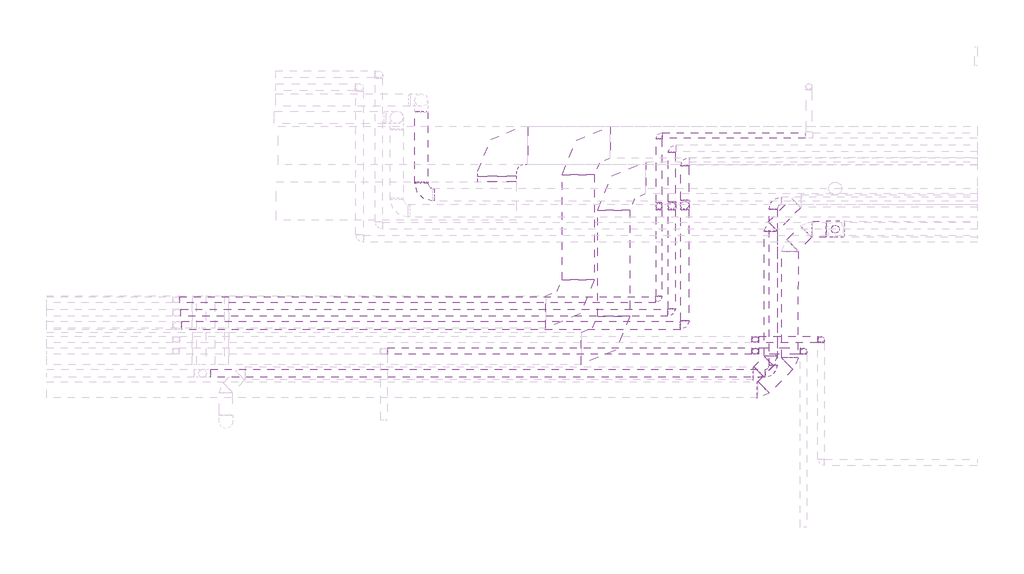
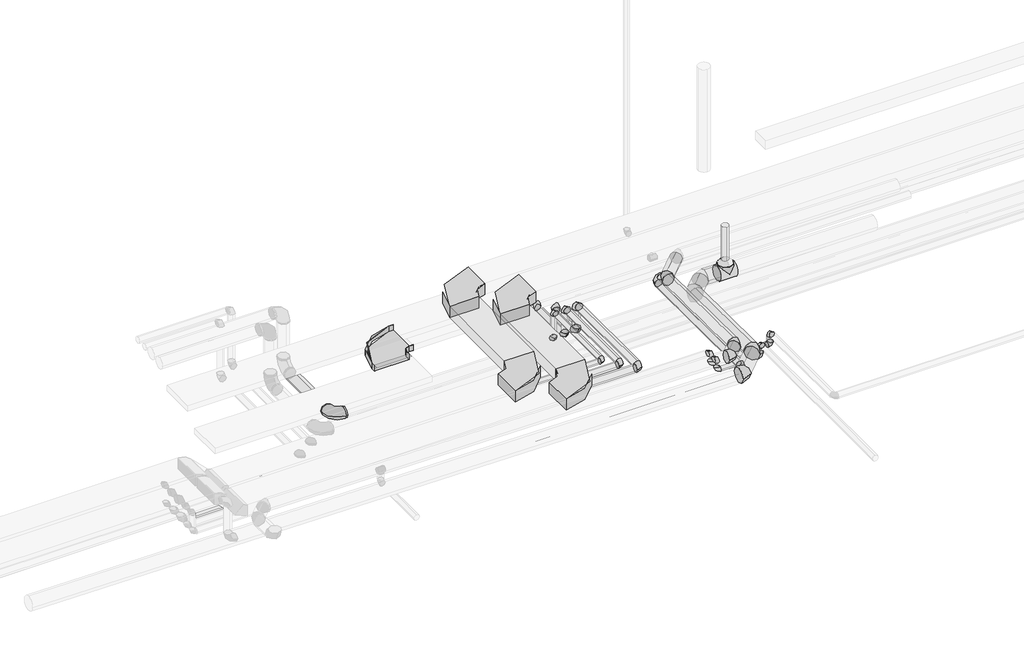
# One storey, part 5 of 12: 29 pipe segments, 27 pipe fittings, 6 duct fittings, 4 duct segments, 1 cable carrier fitting, 1 cable carrier segment.
"""IFC4 building model written with IfcOpenShell, lengths in millimetres."""

from ifc_helpers import new_model, si_unit, point, frame, frame_2d, origin, place, context, project, spatial, polyline, circle_curve, trimmed, segment, composite_curve, outline, extrude, transform, mapped, element, save
from components import m_codo_horizontal_de_canal_el_e565bebe, m_codo_rectangular_radio_apt_1_w_8ec2a39b, m_codo_redondo_ext_1_d_f5cf0ac1, pipe_fitting_ae9a0cda, pipe_fitting_fa3f9604, pipe_fitting_87aeffad, pipe_fitting_e0fa64fe, pipe_fitting_7e9b3de7, pipe_fitting_f9e0fcb5, pipe_fitting_06b8e898, pipe_fitting_057bb177, pipe_fitting_8de1e6f0, pipe_fitting_2f38fb91

model = new_model("IFC4")

# Units and contexts
model_context = context("Model", 3, world=origin())
ifc_project = project(units=[si_unit("LENGTHUNIT", "METRE", prefix="MILLI")], contexts=[model_context])

# Site, building, storey
site = spatial("IfcSite", under=ifc_project)
building = spatial("IfcBuilding", under=site)
storey = spatial("IfcBuildingStorey", under=building, Name="Nivell -01 PS1_PK", Elevation=1850.0)

# Cable carrier fitting
placement = place(None, origin())
m_codo_horizontal_de_canal_el_shape = m_codo_horizontal_de_canal_el_e565bebe(model_context)
element("IfcCableCarrierFitting", 1, ObjectType="M_Codo horizontal de canal : EL", at=placement, inside=storey, context=model_context, shape_type="MappedRepresentation", body=[
    mapped(m_codo_horizontal_de_canal_el_shape, transform((17469.9823979, -12178.0770603, 5200.0), x_axis=(-1.0, 0.0, 0.0), y_axis=(0.0, -1.0, 0.0), z_axis=(0.0, 0.0, 1.0))),
])

# Cable carrier segment
element("IfcCableCarrierSegment", 2, ObjectType="EL", at=placement, inside=storey, context=model_context, shape_type="SweptSolid", body=[
    extrude(outline(polyline([(17169.9823979, -12653.0770603), (17769.9823979, -12653.0770603), (17769.9823979, -12738.9944753), (17169.9823979, -12738.9944753), (17169.9823979, -12653.0770603)])), frame((0.0, 0.0, 5150.0), z_axis=(0.0, 0.0, 1.0), x_axis=(1.0, 0.0, 0.0)), (0.0, 0.0, 1.0), 100.0),
])

# Duct fittings
m_codo_rectangular_radio_apt_1_w_shape = m_codo_rectangular_radio_apt_1_w_8ec2a39b(model_context)
element("IfcDuctFitting", 3, ObjectType="M_Codo rectangular - Radio : APT_1 W", at=placement, inside=storey, context=model_context, shape_type="MappedRepresentation", body=[
    mapped(m_codo_rectangular_radio_apt_1_w_shape, transform((19275.7133499, -15322.0340662, 5750.0), x_axis=(1.0, 0.0, 0.0), y_axis=(0.0, 1.0, 0.0), z_axis=(0.0, 0.0, 1.0))),
])
element("IfcDuctFitting", 4, ObjectType="M_Codo rectangular - Radio : APT_1 W", at=placement, inside=storey, context=model_context, shape_type="MappedRepresentation", body=[
    mapped(m_codo_rectangular_radio_apt_1_w_shape, transform((19275.7133499, -12678.0770603, 5750.0), x_axis=(-1.0, 0.0, 0.0), y_axis=(0.0, -1.0, 0.0), z_axis=(0.0, 0.0, 1.0))),
])
element("IfcDuctFitting", 5, ObjectType="M_Codo rectangular - Radio : EXT_1 W", at=placement, inside=storey, context=model_context, shape_type="MappedRepresentation", body=[
    mapped(m_codo_rectangular_radio_apt_1_w_shape, transform((18725.7133499, -14757.626822, 5750.0), x_axis=(1.0, 0.0, 0.0), y_axis=(0.0, 1.0, 0.0), z_axis=(0.0, 0.0, 1.0))),
])
element("IfcDuctFitting", 6, ObjectType="M_Codo rectangular - Radio : EXT_1 W", at=placement, inside=storey, context=model_context, shape_type="MappedRepresentation", body=[
    mapped(m_codo_rectangular_radio_apt_1_w_shape, transform((18725.7133499, -12128.0770603, 5750.0), x_axis=(-1.0, 0.0, 0.0), y_axis=(0.0, -1.0, 0.0), z_axis=(0.0, 0.0, 1.0))),
])
m_codo_redondo_ext_1_d_shape = m_codo_redondo_ext_1_d_f5cf0ac1(model_context)
element("IfcDuctFitting", 7, ObjectType="M_Codo redondo : EXT_1 D", at=placement, inside=storey, context=model_context, shape_type="MappedRepresentation", body=[
    mapped(m_codo_redondo_ext_1_d_shape, transform((21746.7259712, -13037.2731871, 5450.0326135), x_axis=(-0.9999999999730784, 0.0, 7.3377911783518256e-06), y_axis=(3.064841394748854e-11, -0.9999999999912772, 4.176790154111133e-06), z_axis=(7.3377911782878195e-06, 4.1767901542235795e-06, 0.9999999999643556))),
])
element("IfcDuctFitting", 8, ObjectType="M_Codo redondo : EXT_1 D", at=placement, inside=storey, context=model_context, shape_type="MappedRepresentation", body=[
    mapped(m_codo_redondo_ext_1_d_shape, transform((21746.7259712, -15709.0886118, 5450.0437732), x_axis=(1.0, 0.0, 0.0), y_axis=(0.0, 0.9999999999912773, -4.176790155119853e-06), z_axis=(0.0, 4.176790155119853e-06, 0.9999999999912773))),
])

# Duct segments
element("IfcDuctSegment", 9, ObjectType="EXT_Fibra de vidre rígida", at=placement, inside=storey, context=model_context, shape_type="SweptSolid", body=[
    extrude(outline(polyline([(18975.7133499, -14257.626822), (18475.7133499, -14257.626822), (18475.7133499, -12628.0770603), (18975.7133499, -12628.0770603), (18975.7133499, -14257.626822)])), frame((0.0, 0.0, 5650.0), z_axis=(0.0, 0.0, 1.0), x_axis=(1.0, 0.0, 0.0)), (0.0, 0.0, 1.0), 200.0),
])
element("IfcDuctSegment", 10, ObjectType="APT_Fibra de vidre rígida", at=placement, inside=storey, context=model_context, shape_type="SweptSolid", body=[
    extrude(outline(polyline([(19525.7133499, -14822.0340662), (19025.7133499, -14822.0340662), (19025.7133499, -13178.0770603), (19525.7133499, -13178.0770603), (19525.7133499, -14822.0340662)])), frame((0.0, 0.0, 5650.0), z_axis=(0.0, 0.0, 1.0), x_axis=(1.0, 0.0, 0.0)), (0.0, 0.0, 1.0), 200.0),
])
element("IfcDuctSegment", 11, ObjectType="EXT_Acer Galvanitzat - Rígid", at=placement, inside=storey, context=model_context, shape_type="SweptSolid", body=[
    extrude(outline(composite_curve([segment(trimmed(circle_curve(frame_2d((0.0, 62.5)), 62.5), [point((0.0, 0.0))], [point((-62.5, 62.5))], False, "CARTESIAN"), True, "CONTINUOUS"), segment(trimmed(circle_curve(frame_2d((0.0, 62.5)), 62.5), [point((-62.5, 62.5))], [point((0.0, 125.0))], False, "CARTESIAN"), True, "CONTINUOUS"), segment(trimmed(circle_curve(frame_2d((0.0, 62.5)), 62.5), [point((0.0, 125.0))], [point((62.5, 62.5))], False, "CARTESIAN"), True, "CONTINUOUS"), segment(trimmed(circle_curve(frame_2d((0.0, 62.5)), 62.5), [point((62.5, 62.5))], [point((0.0, 0.0))], False, "CARTESIAN"), True, "CONTINUOUS")], self_intersect=False)), frame((21684.2259712, -13162.2731871, 5450.0331356), z_axis=(0.0, -0.9999999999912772, 4.176790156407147e-06), x_axis=(0.0, -4.176790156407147e-06, -0.9999999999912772)), (0.0, 0.0, 1.0), 2421.8154248),
])
element("IfcDuctSegment", 12, ObjectType="EXT_Acer Galvanitzat - Rígid", at=placement, inside=storey, context=model_context, shape_type="SweptSolid", body=[
    extrude(outline(composite_curve([segment(trimmed(circle_curve(frame_2d((-15709.0886118, 5450.0437732)), 62.5), [point((-15646.5886118, 5450.0437732))], [point((-15709.0886118, 5387.5437732))], False, "CARTESIAN"), True, "CONTINUOUS"), segment(trimmed(circle_curve(frame_2d((-15709.0886118, 5450.0437732)), 62.5), [point((-15709.0886118, 5387.5437732))], [point((-15771.5886118, 5450.0437732))], False, "CARTESIAN"), True, "CONTINUOUS"), segment(trimmed(circle_curve(frame_2d((-15709.0886118, 5450.0437732)), 62.5), [point((-15771.5886118, 5450.0437732))], [point((-15709.0886118, 5512.5437732))], False, "CARTESIAN"), True, "CONTINUOUS"), segment(trimmed(circle_curve(frame_2d((-15709.0886118, 5450.0437732)), 62.5), [point((-15709.0886118, 5512.5437732))], [point((-15646.5886118, 5450.0437732))], False, "CARTESIAN"), True, "CONTINUOUS")], self_intersect=False)), frame((13029.4419437, 0.0, 0.0), z_axis=(1.0, 0.0, 0.0), x_axis=(0.0, 1.0, 0.0)), (0.0, 0.0, 1.0), 8592.2840275),
])

# Pipe fittings
pipe_fitting_shape = pipe_fitting_ae9a0cda(model_context)
element("IfcPipeFitting", 13, ObjectType="M_Codo - Genérico : Estándar", at=placement, inside=storey, context=model_context, shape_type="MappedRepresentation", body=[
    mapped(pipe_fitting_shape, transform((21711.3717909, -15484.7196598, 5756.0169477), x_axis=(0.7070714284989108, 0.7070714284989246, -0.009999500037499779), y_axis=(-0.7071300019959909, 0.707071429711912, -0.004141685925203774), z_axis=(0.004141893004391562, 0.009999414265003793, 0.9999414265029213))),
])
pipe_fitting_2_shape = pipe_fitting_fa3f9604(model_context)
element("IfcPipeFitting", 14, ObjectType="M_Codo - Genérico : Estándar", at=placement, inside=storey, context=model_context, shape_type="MappedRepresentation", body=[
    mapped(pipe_fitting_2_shape, transform((20178.7657524, -13109.9331616, 5515.0), x_axis=(0.0, 1.0, 0.0), y_axis=(0.0, 0.0, -1.0), z_axis=(-1.0, 0.0, 0.0))),
])
element("IfcPipeFitting", 15, ObjectType="M_Codo - Genérico : Estándar", at=placement, inside=storey, context=model_context, shape_type="MappedRepresentation", body=[
    mapped(pipe_fitting_2_shape, transform((20178.7657524, -13109.9331616, 5030.0), x_axis=(0.0, 0.0, -1.0), y_axis=(0.0, 1.0, 0.0), z_axis=(1.0, 0.0, 0.0))),
])
element("IfcPipeFitting", 16, ObjectType="M_Codo - Genérico : Estándar", at=placement, inside=storey, context=model_context, shape_type="MappedRepresentation", body=[
    mapped(pipe_fitting_2_shape, transform((20178.7657524, -14767.4914554, 5515.0), x_axis=(1.0, 0.0, 0.0), y_axis=(0.0, 1.0, 0.0), z_axis=(0.0, 0.0, 1.0))),
])
element("IfcPipeFitting", 17, ObjectType="M_Codo - Genérico : Estándar", at=placement, inside=storey, context=model_context, shape_type="MappedRepresentation", body=[
    mapped(pipe_fitting_2_shape, transform((20178.7657524, -12222.4519116, 5030.0), x_axis=(-1.0, 0.0, 0.0), y_axis=(0.0, -1.0, 0.0), z_axis=(0.0, 0.0, 1.0))),
])
pipe_fitting_3_shape = pipe_fitting_87aeffad(model_context)
element("IfcPipeFitting", 18, ObjectType="M_Codo - Genérico : Estándar", at=placement, inside=storey, context=model_context, shape_type="MappedRepresentation", body=[
    mapped(pipe_fitting_3_shape, transform((19978.7657524, -13120.4831616, 5525.0), x_axis=(0.0, 1.0, 0.0), y_axis=(0.0, 0.0, -1.0), z_axis=(-1.0, 0.0, 0.0))),
])
element("IfcPipeFitting", 19, ObjectType="M_Codo - Genérico : Estándar", at=placement, inside=storey, context=model_context, shape_type="MappedRepresentation", body=[
    mapped(pipe_fitting_3_shape, transform((19978.7657524, -12022.4519116, 5030.0), x_axis=(-1.0, 0.0, 0.0), y_axis=(0.0, -1.0, 0.0), z_axis=(0.0, 0.0, 1.0))),
])
element("IfcPipeFitting", 20, ObjectType="M_Codo - Genérico : Estándar", at=placement, inside=storey, context=model_context, shape_type="MappedRepresentation", body=[
    mapped(pipe_fitting_3_shape, transform((19978.7657524, -13120.4831616, 5030.0), x_axis=(0.0, 0.0, -1.0), y_axis=(0.0, 1.0, 0.0), z_axis=(1.0, 0.0, 0.0))),
])
element("IfcPipeFitting", 21, ObjectType="M_Codo - Genérico : Estándar", at=placement, inside=storey, context=model_context, shape_type="MappedRepresentation", body=[
    mapped(pipe_fitting_3_shape, transform((19978.7657524, -14567.4914554, 5525.0), x_axis=(1.0, 0.0, 0.0), y_axis=(0.0, 1.0, 0.0), z_axis=(0.0, 0.0, 1.0))),
])
element("IfcPipeFitting", 22, ObjectType="M_Codo - Genérico : Estándar", at=placement, inside=storey, context=model_context, shape_type="MappedRepresentation", body=[
    mapped(pipe_fitting_3_shape, transform((22490.3309667, -15184.3810887, 5519.2), x_axis=(0.0, 1.0, 0.0), y_axis=(0.0, 0.0, -1.0), z_axis=(-1.0, 0.0, 0.0))),
])
element("IfcPipeFitting", 23, ObjectType="M_Codo - Genérico : Estándar", at=placement, inside=storey, context=model_context, shape_type="MappedRepresentation", body=[
    mapped(pipe_fitting_3_shape, transform((22490.3309667, -15184.3810887, 5319.2), x_axis=(0.0, 0.0, -1.0), y_axis=(-1.0, 0.0, 0.0), z_axis=(0.0, 1.0, 0.0))),
])
element("IfcPipeFitting", 24, ObjectType="M_Codo - Genérico : Estándar", at=placement, inside=storey, context=model_context, shape_type="MappedRepresentation", body=[
    mapped(pipe_fitting_3_shape, transform((22220.2671011, -15364.3646266, 5519.2), x_axis=(0.0, 1.0, 0.0), y_axis=(0.0, 0.0, -1.0), z_axis=(-1.0, 0.0, 0.0))),
])
element("IfcPipeFitting", 25, ObjectType="M_Codo - Genérico : Estándar", at=placement, inside=storey, context=model_context, shape_type="MappedRepresentation", body=[
    mapped(pipe_fitting_3_shape, transform((22220.2671011, -15364.3646266, 5319.2), x_axis=(0.0, 0.0, -1.0), y_axis=(-1.0, 0.0, 0.0), z_axis=(0.0, 1.0, 0.0))),
])
element("IfcPipeFitting", 26, ObjectType="M_Codo - Genérico : Estándar", at=placement, inside=storey, context=model_context, shape_type="MappedRepresentation", body=[
    mapped(pipe_fitting_3_shape, transform((21470.8983511, -15184.3810887, 5319.2), x_axis=(-1.0, 0.0, 0.0), y_axis=(0.0, 0.0, 1.0), z_axis=(0.0, 1.0, 0.0))),
])
element("IfcPipeFitting", 27, ObjectType="M_Codo - Genérico : Estándar", at=placement, inside=storey, context=model_context, shape_type="MappedRepresentation", body=[
    mapped(pipe_fitting_3_shape, transform((21470.8983511, -15184.3810887, 5519.2), x_axis=(0.0, 0.0, 1.0), y_axis=(-1.0, 0.0, 0.0), z_axis=(0.0, -1.0, 0.0))),
])
element("IfcPipeFitting", 28, ObjectType="M_Codo - Genérico : Estándar", at=placement, inside=storey, context=model_context, shape_type="MappedRepresentation", body=[
    mapped(pipe_fitting_3_shape, transform((21470.8983511, -15364.3646266, 5319.2), x_axis=(-1.0, 0.0, 0.0), y_axis=(0.0, 0.0, 1.0), z_axis=(0.0, 1.0, 0.0))),
])
element("IfcPipeFitting", 29, ObjectType="M_Codo - Genérico : Estándar", at=placement, inside=storey, context=model_context, shape_type="MappedRepresentation", body=[
    mapped(pipe_fitting_3_shape, transform((21470.8983511, -15364.3646266, 5519.2), x_axis=(0.0, 0.0, 1.0), y_axis=(-1.0, 0.0, 0.0), z_axis=(0.0, -1.0, 0.0))),
])
pipe_fitting_4_shape = pipe_fitting_e0fa64fe(model_context)
element("IfcPipeFitting", 30, ObjectType="M_Codo - Genérico : Estándar", at=placement, inside=storey, context=model_context, shape_type="MappedRepresentation", body=[
    mapped(pipe_fitting_4_shape, transform((20378.7657524, -13101.4331616, 5507.5), x_axis=(0.0, 1.0, 0.0), y_axis=(0.0, 0.0, -1.0), z_axis=(-1.0, 0.0, 0.0))),
])
element("IfcPipeFitting", 31, ObjectType="M_Codo - Genérico : Estándar", at=placement, inside=storey, context=model_context, shape_type="MappedRepresentation", body=[
    mapped(pipe_fitting_4_shape, transform((20378.7657524, -13101.4331616, 5030.0), x_axis=(0.0, 0.0, -1.0), y_axis=(0.0, 1.0, 0.0), z_axis=(1.0, 0.0, 0.0))),
])
element("IfcPipeFitting", 32, ObjectType="M_Codo - Genérico : Estándar", at=placement, inside=storey, context=model_context, shape_type="MappedRepresentation", body=[
    mapped(pipe_fitting_4_shape, transform((20378.7657524, -14967.4914554, 5507.5), x_axis=(1.0, 0.0, 0.0), y_axis=(0.0, 1.0, 0.0), z_axis=(0.0, 0.0, 1.0))),
])
element("IfcPipeFitting", 33, ObjectType="M_Codo - Genérico : Estándar", at=placement, inside=storey, context=model_context, shape_type="MappedRepresentation", body=[
    mapped(pipe_fitting_4_shape, transform((20378.7657524, -12422.4519116, 5030.0), x_axis=(-1.0, 0.0, 0.0), y_axis=(0.0, -1.0, 0.0), z_axis=(0.0, 0.0, 1.0))),
])
pipe_fitting_5_shape = pipe_fitting_7e9b3de7(model_context)
element("IfcPipeFitting", 34, ObjectType="M_Codo - Genérico : Estándar", at=placement, inside=storey, context=model_context, shape_type="MappedRepresentation", body=[
    mapped(pipe_fitting_5_shape, transform((21486.997841, -15709.0953774, 5759.1900871), x_axis=(0.9999444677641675, -5.375250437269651e-06, -0.01053856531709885), y_axis=(-3.259281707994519e-05, 0.9999935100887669, -0.00360259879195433), z_axis=(0.010538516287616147, 0.0036027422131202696, 0.9999379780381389))),
])
pipe_fitting_6_shape = pipe_fitting_f9e0fcb5(model_context)
element("IfcPipeFitting", 35, ObjectType="M_Codo - Genérico : Estándar", at=placement, inside=storey, context=model_context, shape_type="MappedRepresentation", body=[
    mapped(pipe_fitting_6_shape, transform((21711.3717909, -13463.9998722, 5735.8097499), x_axis=(-0.7070725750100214, -0.7070702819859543, 0.009999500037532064), y_axis=(0.7071288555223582, -0.7070725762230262, 0.004141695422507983), z_axis=(0.004141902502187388, 0.009999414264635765, 0.9999414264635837))),
])
pipe_fitting_7_shape = pipe_fitting_06b8e898(model_context)
element("IfcPipeFitting", 36, ObjectType="M_Te - Genérica : Estándar", at=placement, inside=storey, context=model_context, shape_type="MappedRepresentation", body=[
    mapped(pipe_fitting_7_shape, transform((22710.5244396, -13474.959858, 5533.9405442), x_axis=(-0.9999500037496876, 0.0, 0.009999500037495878), y_axis=(-0.009999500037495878, 0.0, -0.9999500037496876), z_axis=(0.0, -1.0, 0.0))),
])
pipe_fitting_8_shape = pipe_fitting_057bb177(model_context)
element("IfcPipeFitting", 37, ObjectType="M_Codo - Genérico : Estándar", at=placement, inside=storey, context=model_context, shape_type="MappedRepresentation", body=[
    mapped(pipe_fitting_8_shape, transform((22006.1968687, -15518.9557115, 5559.7146365), x_axis=(0.7071160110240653, 0.7070271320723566, -0.009979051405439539), y_axis=(-0.7070855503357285, 0.7071158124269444, -0.004153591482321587), z_axis=(0.004119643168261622, 0.009993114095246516, 0.9999415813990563))),
])
pipe_fitting_9_shape = pipe_fitting_8de1e6f0(model_context)
element("IfcPipeFitting", 38, ObjectType="M_Codo - Genérico : Estándar", at=placement, inside=storey, context=model_context, shape_type="MappedRepresentation", body=[
    mapped(pipe_fitting_9_shape, transform((21560.6857046, -15964.4108784, 5566.0018351), x_axis=(0.9999500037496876, 0.0, -0.009999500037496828), y_axis=(-4.1123965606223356e-05, 0.9999915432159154, -0.004112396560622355), z_axis=(0.009999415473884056, 0.004112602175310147, 0.9999415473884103))),
])
pipe_fitting_10_shape = pipe_fitting_2f38fb91(model_context)
element("IfcPipeFitting", 39, ObjectType="Codo 90º Soldadura a Tope SDR 11 BluePipe : Estándar", at=placement, inside=storey, context=model_context, shape_type="MappedRepresentation", body=[
    mapped(pipe_fitting_10_shape, transform((16297.0791542, -12939.8388569, 4820.0), x_axis=(-5.613360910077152e-05, -0.999999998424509, 0.0), y_axis=(0.999999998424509, -5.613360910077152e-05, 0.0), z_axis=(0.0, 0.0, 1.0))),
])

# Pipe segments
element("IfcPipeSegment", 40, ObjectType="PPR_CLI_Aquatherm Blue Pipe", at=placement, inside=storey, context=model_context, shape_type="SweptSolid", body=[
    extrude(outline(composite_curve([segment(trimmed(circle_curve(frame_2d((0.0, -100.0000001)), 100.0), [point((0.0, 0.0))], [point((100.0, -100.0000001))], False, "CARTESIAN"), True, "CONTINUOUS"), segment(trimmed(circle_curve(frame_2d((0.0, -100.0000001)), 100.0), [point((100.0, -100.0000001))], [point((0.0, -200.0000001))], False, "CARTESIAN"), True, "CONTINUOUS"), segment(trimmed(circle_curve(frame_2d((0.0, -100.0000001)), 100.0), [point((0.0, -200.0000001))], [point((-100.0, -100.0000001))], False, "CARTESIAN"), True, "CONTINUOUS"), segment(trimmed(circle_curve(frame_2d((0.0, -100.0000001)), 100.0), [point((-100.0, -100.0000001))], [point((0.0, 0.0))], False, "CARTESIAN"), True, "CONTINUOUS")], self_intersect=False)), frame((16197.0889776, -12764.8345543, 4820.0), z_axis=(4.302880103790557e-05, 0.9999999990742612, 0.0), x_axis=(0.0, 0.0, -1.0)), (0.0, 0.0, 1.0), 1116.5505897),
])
element("IfcPipeSegment", 41, ObjectType="AN_CI", at=placement, inside=storey, context=model_context, shape_type="SweptSolid", body=[
    extrude(outline(composite_curve([segment(trimmed(circle_curve(frame_2d((-15364.3646266, 5319.2)), 50.8), [point((-15313.5646266, 5319.2))], [point((-15364.3646266, 5268.4))], False, "CARTESIAN"), True, "CONTINUOUS"), segment(trimmed(circle_curve(frame_2d((-15364.3646266, 5319.2)), 50.8), [point((-15364.3646266, 5268.4))], [point((-15415.1646266, 5319.2))], False, "CARTESIAN"), True, "CONTINUOUS"), segment(trimmed(circle_curve(frame_2d((-15364.3646266, 5319.2)), 50.8), [point((-15415.1646266, 5319.2))], [point((-15364.3646266, 5370.0))], False, "CARTESIAN"), True, "CONTINUOUS"), segment(trimmed(circle_curve(frame_2d((-15364.3646266, 5319.2)), 50.8), [point((-15364.3646266, 5370.0))], [point((-15313.5646266, 5319.2))], False, "CARTESIAN"), True, "CONTINUOUS")], self_intersect=False)), frame((21523.2858511, 0.0, 0.0), z_axis=(1.0, 0.0, 0.0), x_axis=(0.0, 1.0, 0.0)), (0.0, 0.0, 1.0), 644.59375),
])
element("IfcPipeSegment", 42, ObjectType="PP_FN", at=placement, inside=storey, context=model_context, shape_type="SweptSolid", body=[
    extrude(outline(composite_curve([segment(trimmed(circle_curve(frame_2d((5030.0, 20378.7657524)), 62.5), [point((5030.0, 20316.2657524))], [point((4967.5, 20378.7657524))], False, "CARTESIAN"), True, "CONTINUOUS"), segment(trimmed(circle_curve(frame_2d((5030.0, 20378.7657524)), 62.5), [point((4967.5, 20378.7657524))], [point((5030.0, 20441.2657524))], False, "CARTESIAN"), True, "CONTINUOUS"), segment(trimmed(circle_curve(frame_2d((5030.0, 20378.7657524)), 62.5), [point((5030.0, 20441.2657524))], [point((5092.5, 20378.7657524))], False, "CARTESIAN"), True, "CONTINUOUS"), segment(trimmed(circle_curve(frame_2d((5030.0, 20378.7657524)), 62.5), [point((5092.5, 20378.7657524))], [point((5030.0, 20316.2657524))], False, "CARTESIAN"), True, "CONTINUOUS")], self_intersect=False)), frame((0.0, -13029.9956616, 0.0), z_axis=(0.0, 1.0, 0.0), x_axis=(0.0, 0.0, 1.0)), (0.0, 0.0, 1.0), 536.10625),
])
element("IfcPipeSegment", 43, ObjectType="PP_FN", at=placement, inside=storey, context=model_context, shape_type="SweptSolid", body=[
    extrude(outline(composite_curve([segment(trimmed(circle_curve(frame_2d((5030.0, 20178.7657524)), 55.0), [point((5030.0, 20123.7657524))], [point((4975.0, 20178.7657524))], False, "CARTESIAN"), True, "CONTINUOUS"), segment(trimmed(circle_curve(frame_2d((5030.0, 20178.7657524)), 55.0), [point((4975.0, 20178.7657524))], [point((5030.0, 20233.7657524))], False, "CARTESIAN"), True, "CONTINUOUS"), segment(trimmed(circle_curve(frame_2d((5030.0, 20178.7657524)), 55.0), [point((5030.0, 20233.7657524))], [point((5085.0, 20178.7657524))], False, "CARTESIAN"), True, "CONTINUOUS"), segment(trimmed(circle_curve(frame_2d((5030.0, 20178.7657524)), 55.0), [point((5085.0, 20178.7657524))], [point((5030.0, 20123.7657524))], False, "CARTESIAN"), True, "CONTINUOUS")], self_intersect=False)), frame((0.0, -13046.9956616, 0.0), z_axis=(0.0, 1.0, 0.0), x_axis=(0.0, 0.0, 1.0)), (0.0, 0.0, 1.0), 761.60625),
])
element("IfcPipeSegment", 44, ObjectType="PP_FN", at=placement, inside=storey, context=model_context, shape_type="SweptSolid", body=[
    extrude(outline(composite_curve([segment(trimmed(circle_curve(frame_2d((5030.0, 19978.7657524)), 45.0), [point((5030.0, 19933.7657524))], [point((4985.0, 19978.7657524))], False, "CARTESIAN"), True, "CONTINUOUS"), segment(trimmed(circle_curve(frame_2d((5030.0, 19978.7657524)), 45.0), [point((4985.0, 19978.7657524))], [point((5030.0, 20023.7657524))], False, "CARTESIAN"), True, "CONTINUOUS"), segment(trimmed(circle_curve(frame_2d((5030.0, 19978.7657524)), 45.0), [point((5030.0, 20023.7657524))], [point((5075.0, 19978.7657524))], False, "CARTESIAN"), True, "CONTINUOUS"), segment(trimmed(circle_curve(frame_2d((5030.0, 19978.7657524)), 45.0), [point((5075.0, 19978.7657524))], [point((5030.0, 19933.7657524))], False, "CARTESIAN"), True, "CONTINUOUS")], self_intersect=False)), frame((0.0, -13068.0956616, 0.0), z_axis=(0.0, 1.0, 0.0), x_axis=(0.0, 0.0, 1.0)), (0.0, 0.0, 1.0), 993.25625),
])
element("IfcPipeSegment", 45, ObjectType="PVC_Baixant", at=placement, inside=storey, context=model_context, shape_type="SweptSolid", body=[
    extrude(outline(composite_curve([segment(trimmed(circle_curve(frame_2d((0.0, 125.0)), 125.0), [point((-124.993775, 126.2474761))], [point((1.2474761, 249.9937751))], False, "CARTESIAN"), True, "CONTINUOUS"), segment(trimmed(circle_curve(frame_2d((0.0, 125.0)), 125.0), [point((1.2474761, 249.9937751))], [point((124.9937751, 123.7525239))], False, "CARTESIAN"), True, "CONTINUOUS"), segment(trimmed(circle_curve(frame_2d((0.0, 125.0)), 125.0), [point((124.9937751, 123.7525239))], [point((-1.2474761, 0.006225))], False, "CARTESIAN"), True, "CONTINUOUS"), segment(trimmed(circle_curve(frame_2d((0.0, 125.0)), 125.0), [point((-1.2474761, 0.006225))], [point((-124.993775, 126.2474761))], False, "CARTESIAN"), True, "CONTINUOUS")], self_intersect=False)), frame((21966.7583395, -15560.1533704, 5435.2836545), z_axis=(-0.7071160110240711, -0.7070271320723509, 0.009979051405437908), x_axis=(0.7070975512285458, -0.7070455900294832, 0.009979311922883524)), (0.0, 0.0, 1.0), 518.3812238),
])
element("IfcPipeSegment", 46, ObjectType="PVC_Baixant", at=placement, inside=storey, context=model_context, shape_type="SweptSolid", body=[
    extrude(outline(composite_curve([segment(trimmed(circle_curve(frame_2d((0.0, 62.5)), 62.5), [point((-62.5, 62.4999998))], [point((-1e-07, 125.0))], False, "CARTESIAN"), True, "CONTINUOUS"), segment(trimmed(circle_curve(frame_2d((0.0, 62.5)), 62.5), [point((-1e-07, 125.0))], [point((62.5, 62.5000001))], False, "CARTESIAN"), True, "CONTINUOUS"), segment(trimmed(circle_curve(frame_2d((0.0, 62.5)), 62.5), [point((62.5, 62.5000001))], [point((2e-07, 0.0))], False, "CARTESIAN"), True, "CONTINUOUS"), segment(trimmed(circle_curve(frame_2d((0.0, 62.5)), 62.5), [point((2e-07, 0.0))], [point((-62.5, 62.4999998))], False, "CARTESIAN"), True, "CONTINUOUS")], self_intersect=False)), frame((22710.5256118, -13537.4586864, 5739.5187046), z_axis=(-4.946309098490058e-05, -4.943459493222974e-05, 0.9999999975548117), x_axis=(0.9999999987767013, -2.445190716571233e-09, 4.9463090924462e-05)), (0.0, 0.0, 1.0), 610.4781515),
])
element("IfcPipeSegment", 47, ObjectType="PP_FN", at=placement, inside=storey, context=model_context, shape_type="SweptSolid", body=[
    extrude(outline(composite_curve([segment(trimmed(circle_curve(frame_2d((-12022.4519116, 5030.0)), 45.0), [point((-12067.4519116, 5030.0))], [point((-12022.4519116, 5075.0))], False, "CARTESIAN"), True, "CONTINUOUS"), segment(trimmed(circle_curve(frame_2d((-12022.4519116, 5030.0)), 45.0), [point((-12022.4519116, 5075.0))], [point((-11977.4519116, 5030.0))], False, "CARTESIAN"), True, "CONTINUOUS"), segment(trimmed(circle_curve(frame_2d((-12022.4519116, 5030.0)), 45.0), [point((-11977.4519116, 5030.0))], [point((-12022.4519116, 4985.0))], False, "CARTESIAN"), True, "CONTINUOUS"), segment(trimmed(circle_curve(frame_2d((-12022.4519116, 5030.0)), 45.0), [point((-12022.4519116, 4985.0))], [point((-12067.4519116, 5030.0))], False, "CARTESIAN"), True, "CONTINUOUS")], self_intersect=False)), frame((20031.1532524, 0.0, 0.0), z_axis=(1.0, 0.0, 0.0), x_axis=(0.0, 1.0, 0.0)), (0.0, 0.0, 1.0), 2212.4683915),
])
element("IfcPipeSegment", 48, ObjectType="PP_FN", at=placement, inside=storey, context=model_context, shape_type="SweptSolid", body=[
    extrude(outline(composite_curve([segment(trimmed(circle_curve(frame_2d((5525.0, 19978.7657524)), 45.0), [point((5525.0, 20023.7657524))], [point((5570.0, 19978.7657524))], False, "CARTESIAN"), True, "CONTINUOUS"), segment(trimmed(circle_curve(frame_2d((5525.0, 19978.7657524)), 45.0), [point((5570.0, 19978.7657524))], [point((5525.0, 19933.7657524))], False, "CARTESIAN"), True, "CONTINUOUS"), segment(trimmed(circle_curve(frame_2d((5525.0, 19978.7657524)), 45.0), [point((5525.0, 19933.7657524))], [point((5480.0, 19978.7657524))], False, "CARTESIAN"), True, "CONTINUOUS"), segment(trimmed(circle_curve(frame_2d((5525.0, 19978.7657524)), 45.0), [point((5480.0, 19978.7657524))], [point((5525.0, 20023.7657524))], False, "CARTESIAN"), True, "CONTINUOUS")], self_intersect=False)), frame((0.0, -14515.1039554, 0.0), z_axis=(0.0, 1.0, 0.0), x_axis=(0.0, 0.0, 1.0)), (0.0, 0.0, 1.0), 1342.2332938),
])
element("IfcPipeSegment", 49, ObjectType="PP_FN", at=placement, inside=storey, context=model_context, shape_type="SweptSolid", body=[
    extrude(outline(composite_curve([segment(trimmed(circle_curve(frame_2d((5515.0, 20178.7657524)), 55.0), [point((5515.0, 20233.7657524))], [point((5570.0, 20178.7657524))], False, "CARTESIAN"), True, "CONTINUOUS"), segment(trimmed(circle_curve(frame_2d((5515.0, 20178.7657524)), 55.0), [point((5570.0, 20178.7657524))], [point((5515.0, 20123.7657524))], False, "CARTESIAN"), True, "CONTINUOUS"), segment(trimmed(circle_curve(frame_2d((5515.0, 20178.7657524)), 55.0), [point((5515.0, 20123.7657524))], [point((5460.0, 20178.7657524))], False, "CARTESIAN"), True, "CONTINUOUS"), segment(trimmed(circle_curve(frame_2d((5515.0, 20178.7657524)), 55.0), [point((5460.0, 20178.7657524))], [point((5515.0, 20233.7657524))], False, "CARTESIAN"), True, "CONTINUOUS")], self_intersect=False)), frame((0.0, -14704.5539554, 0.0), z_axis=(0.0, 1.0, 0.0), x_axis=(0.0, 0.0, 1.0)), (0.0, 0.0, 1.0), 1531.6832938),
])
element("IfcPipeSegment", 50, ObjectType="PP_FN", at=placement, inside=storey, context=model_context, shape_type="SweptSolid", body=[
    extrude(outline(composite_curve([segment(trimmed(circle_curve(frame_2d((5507.5, 20378.7657524)), 62.5), [point((5507.5, 20441.2657524))], [point((5570.0, 20378.7657524))], False, "CARTESIAN"), True, "CONTINUOUS"), segment(trimmed(circle_curve(frame_2d((5507.5, 20378.7657524)), 62.5), [point((5570.0, 20378.7657524))], [point((5507.5, 20316.2657524))], False, "CARTESIAN"), True, "CONTINUOUS"), segment(trimmed(circle_curve(frame_2d((5507.5, 20378.7657524)), 62.5), [point((5507.5, 20316.2657524))], [point((5445.0, 20378.7657524))], False, "CARTESIAN"), True, "CONTINUOUS"), segment(trimmed(circle_curve(frame_2d((5507.5, 20378.7657524)), 62.5), [point((5445.0, 20378.7657524))], [point((5507.5, 20441.2657524))], False, "CARTESIAN"), True, "CONTINUOUS")], self_intersect=False)), frame((0.0, -14896.0539554, 0.0), z_axis=(0.0, 1.0, 0.0), x_axis=(0.0, 0.0, 1.0)), (0.0, 0.0, 1.0), 1723.1832938),
])
element("IfcPipeSegment", 51, ObjectType="PP_FN", at=placement, inside=storey, context=model_context, shape_type="SweptSolid", body=[
    extrude(outline(composite_curve([segment(trimmed(circle_curve(frame_2d((19978.7657524, -13120.4831616)), 45.0), [point((20023.7657524, -13120.4831616))], [point((19978.7657524, -13165.4831616))], False, "CARTESIAN"), True, "CONTINUOUS"), segment(trimmed(circle_curve(frame_2d((19978.7657524, -13120.4831616)), 45.0), [point((19978.7657524, -13165.4831616))], [point((19933.7657524, -13120.4831616))], False, "CARTESIAN"), True, "CONTINUOUS"), segment(trimmed(circle_curve(frame_2d((19978.7657524, -13120.4831616)), 45.0), [point((19933.7657524, -13120.4831616))], [point((19978.7657524, -13075.4831616))], False, "CARTESIAN"), True, "CONTINUOUS"), segment(trimmed(circle_curve(frame_2d((19978.7657524, -13120.4831616)), 45.0), [point((19978.7657524, -13075.4831616))], [point((20023.7657524, -13120.4831616))], False, "CARTESIAN"), True, "CONTINUOUS")], self_intersect=False)), frame((0.0, 0.0, 5082.3875), z_axis=(0.0, 0.0, 1.0), x_axis=(1.0, 0.0, 0.0)), (0.0, 0.0, 1.0), 390.225),
])
element("IfcPipeSegment", 52, ObjectType="PP_FN", at=placement, inside=storey, context=model_context, shape_type="SweptSolid", body=[
    extrude(outline(composite_curve([segment(trimmed(circle_curve(frame_2d((20178.7657524, -13109.9331616)), 55.0), [point((20233.7657524, -13109.9331616))], [point((20178.7657524, -13164.9331616))], False, "CARTESIAN"), True, "CONTINUOUS"), segment(trimmed(circle_curve(frame_2d((20178.7657524, -13109.9331616)), 55.0), [point((20178.7657524, -13164.9331616))], [point((20123.7657524, -13109.9331616))], False, "CARTESIAN"), True, "CONTINUOUS"), segment(trimmed(circle_curve(frame_2d((20178.7657524, -13109.9331616)), 55.0), [point((20123.7657524, -13109.9331616))], [point((20178.7657524, -13054.9331616))], False, "CARTESIAN"), True, "CONTINUOUS"), segment(trimmed(circle_curve(frame_2d((20178.7657524, -13109.9331616)), 55.0), [point((20178.7657524, -13054.9331616))], [point((20233.7657524, -13109.9331616))], False, "CARTESIAN"), True, "CONTINUOUS")], self_intersect=False)), frame((0.0, 0.0, 5092.9375), z_axis=(0.0, 0.0, 1.0), x_axis=(1.0, 0.0, 0.0)), (0.0, 0.0, 1.0), 359.125),
])
element("IfcPipeSegment", 53, ObjectType="PP_FN", at=placement, inside=storey, context=model_context, shape_type="SweptSolid", body=[
    extrude(outline(composite_curve([segment(trimmed(circle_curve(frame_2d((20378.7657524, -13101.4331616)), 62.5), [point((20441.2657524, -13101.4331616))], [point((20378.7657524, -13163.9331616))], False, "CARTESIAN"), True, "CONTINUOUS"), segment(trimmed(circle_curve(frame_2d((20378.7657524, -13101.4331616)), 62.5), [point((20378.7657524, -13163.9331616))], [point((20316.2657524, -13101.4331616))], False, "CARTESIAN"), True, "CONTINUOUS"), segment(trimmed(circle_curve(frame_2d((20378.7657524, -13101.4331616)), 62.5), [point((20316.2657524, -13101.4331616))], [point((20378.7657524, -13038.9331616))], False, "CARTESIAN"), True, "CONTINUOUS"), segment(trimmed(circle_curve(frame_2d((20378.7657524, -13101.4331616)), 62.5), [point((20378.7657524, -13038.9331616))], [point((20441.2657524, -13101.4331616))], False, "CARTESIAN"), True, "CONTINUOUS")], self_intersect=False)), frame((0.0, 0.0, 5101.4375), z_axis=(0.0, 0.0, 1.0), x_axis=(1.0, 0.0, 0.0)), (0.0, 0.0, 1.0), 334.625),
])
element("IfcPipeSegment", 54, ObjectType="PP_FN", at=placement, inside=storey, context=model_context, shape_type="SweptSolid", body=[
    extrude(outline(composite_curve([segment(trimmed(circle_curve(frame_2d((-14967.4914554, 5507.5)), 62.5), [point((-14904.9914554, 5507.5))], [point((-14967.4914554, 5445.0))], False, "CARTESIAN"), True, "CONTINUOUS"), segment(trimmed(circle_curve(frame_2d((-14967.4914554, 5507.5)), 62.5), [point((-14967.4914554, 5445.0))], [point((-15029.9914554, 5507.5))], False, "CARTESIAN"), True, "CONTINUOUS"), segment(trimmed(circle_curve(frame_2d((-14967.4914554, 5507.5)), 62.5), [point((-15029.9914554, 5507.5))], [point((-14967.4914554, 5570.0))], False, "CARTESIAN"), True, "CONTINUOUS"), segment(trimmed(circle_curve(frame_2d((-14967.4914554, 5507.5)), 62.5), [point((-14967.4914554, 5570.0))], [point((-14904.9914554, 5507.5))], False, "CARTESIAN"), True, "CONTINUOUS")], self_intersect=False)), frame((12586.2092422, 0.0, 0.0), z_axis=(1.0, 0.0, 0.0), x_axis=(0.0, 1.0, 0.0)), (0.0, 0.0, 1.0), 7721.1190102),
])
element("IfcPipeSegment", 55, ObjectType="PP_FN", at=placement, inside=storey, context=model_context, shape_type="SweptSolid", body=[
    extrude(outline(composite_curve([segment(trimmed(circle_curve(frame_2d((-14767.4914554, 5515.0)), 55.0), [point((-14712.4914554, 5515.0))], [point((-14767.4914554, 5460.0))], False, "CARTESIAN"), True, "CONTINUOUS"), segment(trimmed(circle_curve(frame_2d((-14767.4914554, 5515.0)), 55.0), [point((-14767.4914554, 5460.0))], [point((-14822.4914554, 5515.0))], False, "CARTESIAN"), True, "CONTINUOUS"), segment(trimmed(circle_curve(frame_2d((-14767.4914554, 5515.0)), 55.0), [point((-14822.4914554, 5515.0))], [point((-14767.4914554, 5570.0))], False, "CARTESIAN"), True, "CONTINUOUS"), segment(trimmed(circle_curve(frame_2d((-14767.4914554, 5515.0)), 55.0), [point((-14767.4914554, 5570.0))], [point((-14712.4914554, 5515.0))], False, "CARTESIAN"), True, "CONTINUOUS")], self_intersect=False)), frame((12569.2092422, 0.0, 0.0), z_axis=(1.0, 0.0, 0.0), x_axis=(0.0, 1.0, 0.0)), (0.0, 0.0, 1.0), 7546.6190102),
])
element("IfcPipeSegment", 56, ObjectType="PP_FN", at=placement, inside=storey, context=model_context, shape_type="SweptSolid", body=[
    extrude(outline(composite_curve([segment(trimmed(circle_curve(frame_2d((-14567.4914554, 5525.0)), 45.0), [point((-14522.4914554, 5525.0))], [point((-14567.4914554, 5480.0))], False, "CARTESIAN"), True, "CONTINUOUS"), segment(trimmed(circle_curve(frame_2d((-14567.4914554, 5525.0)), 45.0), [point((-14567.4914554, 5480.0))], [point((-14612.4914554, 5525.0))], False, "CARTESIAN"), True, "CONTINUOUS"), segment(trimmed(circle_curve(frame_2d((-14567.4914554, 5525.0)), 45.0), [point((-14612.4914554, 5525.0))], [point((-14567.4914554, 5570.0))], False, "CARTESIAN"), True, "CONTINUOUS"), segment(trimmed(circle_curve(frame_2d((-14567.4914554, 5525.0)), 45.0), [point((-14567.4914554, 5570.0))], [point((-14522.4914554, 5525.0))], False, "CARTESIAN"), True, "CONTINUOUS")], self_intersect=False)), frame((12548.1092422, 0.0, 0.0), z_axis=(1.0, 0.0, 0.0), x_axis=(0.0, 1.0, 0.0)), (0.0, 0.0, 1.0), 7378.2690102),
])
element("IfcPipeSegment", 57, ObjectType="PVC_Baixant", at=placement, inside=storey, context=model_context, shape_type="SweptSolid", body=[
    extrude(outline(composite_curve([segment(trimmed(circle_curve(frame_2d((0.0, 125.0)), 125.0), [point((0.0, 250.0))], [point((124.9999999, 125.0))], False, "CARTESIAN"), True, "CONTINUOUS"), segment(trimmed(circle_curve(frame_2d((0.0, 125.0)), 125.0), [point((124.9999999, 125.0))], [point((0.0, 0.0))], False, "CARTESIAN"), True, "CONTINUOUS"), segment(trimmed(circle_curve(frame_2d((0.0, 125.0)), 125.0), [point((0.0, 0.0))], [point((-125.0, 125.0))], False, "CARTESIAN"), True, "CONTINUOUS"), segment(trimmed(circle_curve(frame_2d((0.0, 125.0)), 125.0), [point((-125.0, 125.0))], [point((0.0, 250.0))], False, "CARTESIAN"), True, "CONTINUOUS")], self_intersect=False)), frame((22569.2440035, -13599.959858, 5535.3533486), z_axis=(-0.9999500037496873, 0.0, 0.00999950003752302), x_axis=(0.00999950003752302, 0.0, 0.9999500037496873)), (0.0, 0.0, 1.0), 216.4281281),
])
element("IfcPipeSegment", 58, ObjectType="PVC_Baixant", at=placement, inside=storey, context=model_context, shape_type="SweptSolid", body=[
    extrude(outline(composite_curve([segment(trimmed(circle_curve(frame_2d((0.0, 124.9999999)), 125.0), [point((-124.9937511, 126.2498644))], [point((1.2498645, 249.9937511))], False, "CARTESIAN"), True, "CONTINUOUS"), segment(trimmed(circle_curve(frame_2d((0.0, 124.9999999)), 125.0), [point((1.2498645, 249.9937511))], [point((124.9937513, 123.7501355))], False, "CARTESIAN"), True, "CONTINUOUS"), segment(trimmed(circle_curve(frame_2d((0.0, 124.9999999)), 125.0), [point((124.9937513, 123.7501355))], [point((-1.2498644, 0.0062488))], False, "CARTESIAN"), True, "CONTINUOUS"), segment(trimmed(circle_curve(frame_2d((0.0, 124.9999999)), 125.0), [point((-1.2498644, 0.0062488))], [point((-124.9937511, 126.2498644))], False, "CARTESIAN"), True, "CONTINUOUS")], self_intersect=False)), frame((22257.4218336, -13516.2454286, 5413.6477572), z_axis=(-0.7070684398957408, -0.7070744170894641, 0.00999950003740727), x_axis=(0.707145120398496, -0.7069977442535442, 0.00999841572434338)), (0.0, 0.0, 1.0), 295.7372042),
])
element("IfcPipeSegment", 59, ObjectType="PVC_Baixant", at=placement, inside=storey, context=model_context, shape_type="SweptSolid", body=[
    extrude(outline(composite_curve([segment(trimmed(circle_curve(frame_2d((0.0, 125.0)), 125.0), [point((-124.9999999, 125.0019126))], [point((0.0019126, 250.0))], False, "CARTESIAN"), True, "CONTINUOUS"), segment(trimmed(circle_curve(frame_2d((0.0, 125.0)), 125.0), [point((0.0019126, 250.0))], [point((125.0, 124.9980874))], False, "CARTESIAN"), True, "CONTINUOUS"), segment(trimmed(circle_curve(frame_2d((0.0, 125.0)), 125.0), [point((125.0, 124.9980874))], [point((-0.0019125, 0.0))], False, "CARTESIAN"), True, "CONTINUOUS"), segment(trimmed(circle_curve(frame_2d((0.0, 125.0)), 125.0), [point((-0.0019125, 0.0))], [point((-124.9999999, 125.0019126))], False, "CARTESIAN"), True, "CONTINUOUS")], self_intersect=False)), frame((22008.7975585, -13820.0348618, 5417.7140564), z_axis=(-0.0015295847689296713, -0.9999488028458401, 0.010002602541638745), x_axis=(0.9999988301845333, -0.0015295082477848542, 1.5299846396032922e-05)), (0.0, 0.0, 1.0), 1644.4844482),
])
element("IfcPipeSegment", 60, ObjectType="PVC_Baixant", at=placement, inside=storey, context=model_context, shape_type="SweptSolid", body=[
    extrude(outline(composite_curve([segment(trimmed(circle_curve(frame_2d((0.0, -100.0)), 100.0), [point((99.995001, -100.999889))], [point((-0.999889, -199.995001))], False, "CARTESIAN"), True, "CONTINUOUS"), segment(trimmed(circle_curve(frame_2d((0.0, -100.0)), 100.0), [point((-0.999889, -199.995001))], [point((-99.995001, -99.000111))], False, "CARTESIAN"), True, "CONTINUOUS"), segment(trimmed(circle_curve(frame_2d((0.0, -100.0)), 100.0), [point((-99.995001, -99.000111))], [point((0.9998889, -0.0049991))], False, "CARTESIAN"), True, "CONTINUOUS"), segment(trimmed(circle_curve(frame_2d((0.0, -100.0)), 100.0), [point((0.9998889, -0.0049991))], [point((99.995001, -100.999889))], False, "CARTESIAN"), True, "CONTINUOUS")], self_intersect=False)), frame((21679.2924831, -15515.3849033, 5856.4606193), z_axis=(-0.7070675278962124, -0.7070753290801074, 0.009999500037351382), x_axis=(0.7071460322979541, -0.706996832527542, 0.009998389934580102)), (0.0, 0.0, 1.0), 226.5910663),
])
element("IfcPipeSegment", 61, ObjectType="PVC_Baixant", at=placement, inside=storey, context=model_context, shape_type="SweptSolid", body=[
    extrude(outline(composite_curve([segment(trimmed(circle_curve(frame_2d((0.0, -100.0)), 100.0), [point((100.0, -100.0))], [point((0.0, -199.9999999))], False, "CARTESIAN"), True, "CONTINUOUS"), segment(trimmed(circle_curve(frame_2d((0.0, -100.0)), 100.0), [point((0.0, -199.9999999))], [point((-100.0, -100.0))], False, "CARTESIAN"), True, "CONTINUOUS"), segment(trimmed(circle_curve(frame_2d((0.0, -100.0)), 100.0), [point((-100.0, -100.0))], [point((0.0, 0.0))], False, "CARTESIAN"), True, "CONTINUOUS"), segment(trimmed(circle_curve(frame_2d((0.0, -100.0)), 100.0), [point((0.0, 0.0))], [point((100.0, -100.0))], False, "CARTESIAN"), True, "CONTINUOUS")], self_intersect=False)), frame((21711.3717909, -13508.3670185, 5836.2584212), z_axis=(0.0, -0.9999500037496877, 0.00999950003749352), x_axis=(1.0, 0.0, 0.0)), (0.0, 0.0, 1.0), 1930.082196),
])
element("IfcPipeSegment", 62, ObjectType="PVC_Baixant", at=placement, inside=storey, context=model_context, shape_type="SweptSolid", body=[
    extrude(outline(composite_curve([segment(trimmed(circle_curve(frame_2d((0.0, 100.0)), 100.0), [point((-99.9950007, 100.9999157))], [point((0.9999157, 199.9950007))], False, "CARTESIAN"), True, "CONTINUOUS"), segment(trimmed(circle_curve(frame_2d((0.0, 100.0)), 100.0), [point((0.9999157, 199.9950007))], [point((99.9950007, 99.0000843))], False, "CARTESIAN"), True, "CONTINUOUS"), segment(trimmed(circle_curve(frame_2d((0.0, 100.0)), 100.0), [point((99.9950007, 99.0000843))], [point((-0.9999157, 0.0049992))], False, "CARTESIAN"), True, "CONTINUOUS"), segment(trimmed(circle_curve(frame_2d((0.0, 100.0)), 100.0), [point((-0.9999157, 0.0049992))], [point((-99.9950007, 100.9999157))], False, "CARTESIAN"), True, "CONTINUOUS")], self_intersect=False)), frame((22105.5590706, -13071.2324625, 5630.2451395), z_axis=(-0.7070769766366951, -0.7070658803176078, 0.009999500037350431), x_axis=(0.7071365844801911, -0.7070062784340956, 0.009998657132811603)), (0.0, 0.0, 1.0), 512.1194131),
])
element("IfcPipeSegment", 63, ObjectType="AN_CI", at=placement, inside=storey, context=model_context, shape_type="SweptSolid", body=[
    extrude(outline(composite_curve([segment(trimmed(circle_curve(frame_2d((-15184.3810887, 5319.2)), 50.8), [point((-15133.5810887, 5319.2))], [point((-15184.3810887, 5268.4))], False, "CARTESIAN"), True, "CONTINUOUS"), segment(trimmed(circle_curve(frame_2d((-15184.3810887, 5319.2)), 50.8), [point((-15184.3810887, 5268.4))], [point((-15235.1810887, 5319.2))], False, "CARTESIAN"), True, "CONTINUOUS"), segment(trimmed(circle_curve(frame_2d((-15184.3810887, 5319.2)), 50.8), [point((-15235.1810887, 5319.2))], [point((-15184.3810887, 5370.0))], False, "CARTESIAN"), True, "CONTINUOUS"), segment(trimmed(circle_curve(frame_2d((-15184.3810887, 5319.2)), 50.8), [point((-15184.3810887, 5370.0))], [point((-15133.5810887, 5319.2))], False, "CARTESIAN"), True, "CONTINUOUS")], self_intersect=False)), frame((21523.2858511, 0.0, 0.0), z_axis=(1.0, 0.0, 0.0), x_axis=(0.0, 1.0, 0.0)), (0.0, 0.0, 1.0), 914.6576156),
])
element("IfcPipeSegment", 64, ObjectType="AN_CI", at=placement, inside=storey, context=model_context, shape_type="SweptSolid", body=[
    extrude(outline(composite_curve([segment(trimmed(circle_curve(frame_2d((22490.3309667, -15184.3810887)), 50.8), [point((22541.1309667, -15184.3810887))], [point((22490.3309667, -15235.1810887))], False, "CARTESIAN"), True, "CONTINUOUS"), segment(trimmed(circle_curve(frame_2d((22490.3309667, -15184.3810887)), 50.8), [point((22490.3309667, -15235.1810887))], [point((22439.5309667, -15184.3810887))], False, "CARTESIAN"), True, "CONTINUOUS"), segment(trimmed(circle_curve(frame_2d((22490.3309667, -15184.3810887)), 50.8), [point((22439.5309667, -15184.3810887))], [point((22490.3309667, -15133.5810887))], False, "CARTESIAN"), True, "CONTINUOUS"), segment(trimmed(circle_curve(frame_2d((22490.3309667, -15184.3810887)), 50.8), [point((22490.3309667, -15133.5810887))], [point((22541.1309667, -15184.3810887))], False, "CARTESIAN"), True, "CONTINUOUS")], self_intersect=False)), frame((0.0, 0.0, 5371.5875), z_axis=(0.0, 0.0, 1.0), x_axis=(1.0, 0.0, 0.0)), (0.0, 0.0, 1.0), 95.225),
])
element("IfcPipeSegment", 65, ObjectType="AN_CI", at=placement, inside=storey, context=model_context, shape_type="SweptSolid", body=[
    extrude(outline(composite_curve([segment(trimmed(circle_curve(frame_2d((22220.2671011, -15364.3646266)), 50.8), [point((22271.0671011, -15364.3646266))], [point((22220.2671011, -15415.1646266))], False, "CARTESIAN"), True, "CONTINUOUS"), segment(trimmed(circle_curve(frame_2d((22220.2671011, -15364.3646266)), 50.8), [point((22220.2671011, -15415.1646266))], [point((22169.4671011, -15364.3646266))], False, "CARTESIAN"), True, "CONTINUOUS"), segment(trimmed(circle_curve(frame_2d((22220.2671011, -15364.3646266)), 50.8), [point((22169.4671011, -15364.3646266))], [point((22220.2671011, -15313.5646266))], False, "CARTESIAN"), True, "CONTINUOUS"), segment(trimmed(circle_curve(frame_2d((22220.2671011, -15364.3646266)), 50.8), [point((22220.2671011, -15313.5646266))], [point((22271.0671011, -15364.3646266))], False, "CARTESIAN"), True, "CONTINUOUS")], self_intersect=False)), frame((0.0, 0.0, 5371.5875), z_axis=(0.0, 0.0, 1.0), x_axis=(1.0, 0.0, 0.0)), (0.0, 0.0, 1.0), 95.225),
])
element("IfcPipeSegment", 66, ObjectType="AN_CI", at=placement, inside=storey, context=model_context, shape_type="SweptSolid", body=[
    extrude(outline(composite_curve([segment(trimmed(circle_curve(frame_2d((21470.8983511, -15184.3810887)), 50.8), [point((21420.0983511, -15184.3810887))], [point((21470.8983511, -15133.5810887))], False, "CARTESIAN"), True, "CONTINUOUS"), segment(trimmed(circle_curve(frame_2d((21470.8983511, -15184.3810887)), 50.8), [point((21470.8983511, -15133.5810887))], [point((21521.6983511, -15184.3810887))], False, "CARTESIAN"), True, "CONTINUOUS"), segment(trimmed(circle_curve(frame_2d((21470.8983511, -15184.3810887)), 50.8), [point((21521.6983511, -15184.3810887))], [point((21470.8983511, -15235.1810887))], False, "CARTESIAN"), True, "CONTINUOUS"), segment(trimmed(circle_curve(frame_2d((21470.8983511, -15184.3810887)), 50.8), [point((21470.8983511, -15235.1810887))], [point((21420.0983511, -15184.3810887))], False, "CARTESIAN"), True, "CONTINUOUS")], self_intersect=False)), frame((0.0, 0.0, 5371.5875), z_axis=(0.0, 0.0, 1.0), x_axis=(1.0, 0.0, 0.0)), (0.0, 0.0, 1.0), 95.225),
])
element("IfcPipeSegment", 67, ObjectType="AN_CI", at=placement, inside=storey, context=model_context, shape_type="SweptSolid", body=[
    extrude(outline(composite_curve([segment(trimmed(circle_curve(frame_2d((21470.8983511, -15364.3646266)), 50.8), [point((21420.0983511, -15364.3646266))], [point((21470.8983511, -15313.5646266))], False, "CARTESIAN"), True, "CONTINUOUS"), segment(trimmed(circle_curve(frame_2d((21470.8983511, -15364.3646266)), 50.8), [point((21470.8983511, -15313.5646266))], [point((21521.6983511, -15364.3646266))], False, "CARTESIAN"), True, "CONTINUOUS"), segment(trimmed(circle_curve(frame_2d((21470.8983511, -15364.3646266)), 50.8), [point((21521.6983511, -15364.3646266))], [point((21470.8983511, -15415.1646266))], False, "CARTESIAN"), True, "CONTINUOUS"), segment(trimmed(circle_curve(frame_2d((21470.8983511, -15364.3646266)), 50.8), [point((21470.8983511, -15415.1646266))], [point((21420.0983511, -15364.3646266))], False, "CARTESIAN"), True, "CONTINUOUS")], self_intersect=False)), frame((0.0, 0.0, 5371.5875), z_axis=(0.0, 0.0, 1.0), x_axis=(1.0, 0.0, 0.0)), (0.0, 0.0, 1.0), 95.225),
])
element("IfcPipeSegment", 68, ObjectType="AN_CI", at=placement, inside=storey, context=model_context, shape_type="SweptSolid", body=[
    extrude(outline(composite_curve([segment(trimmed(circle_curve(frame_2d((-15364.3646266, 5519.2)), 50.8), [point((-15313.5646266, 5519.2))], [point((-15364.3646266, 5468.4))], False, "CARTESIAN"), True, "CONTINUOUS"), segment(trimmed(circle_curve(frame_2d((-15364.3646266, 5519.2)), 50.8), [point((-15364.3646266, 5468.4))], [point((-15415.1646266, 5519.2))], False, "CARTESIAN"), True, "CONTINUOUS"), segment(trimmed(circle_curve(frame_2d((-15364.3646266, 5519.2)), 50.8), [point((-15415.1646266, 5519.2))], [point((-15364.3646266, 5570.0))], False, "CARTESIAN"), True, "CONTINUOUS"), segment(trimmed(circle_curve(frame_2d((-15364.3646266, 5519.2)), 50.8), [point((-15364.3646266, 5570.0))], [point((-15313.5646266, 5519.2))], False, "CARTESIAN"), True, "CONTINUOUS")], self_intersect=False)), frame((15773.6578808, 0.0, 0.0), z_axis=(1.0, 0.0, 0.0), x_axis=(0.0, 1.0, 0.0)), (0.0, 0.0, 1.0), 5644.8529703),
])

save(model, "model.ifc")
